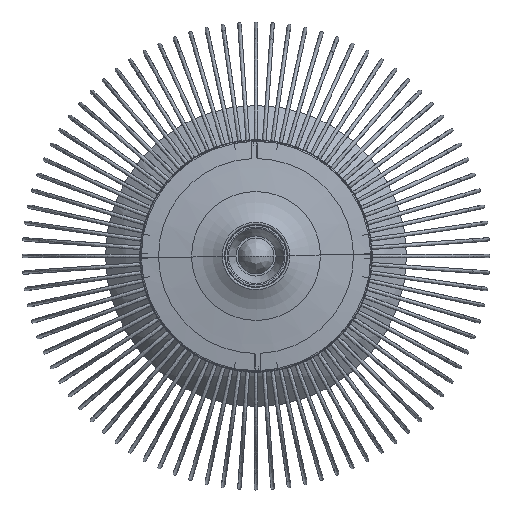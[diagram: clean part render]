
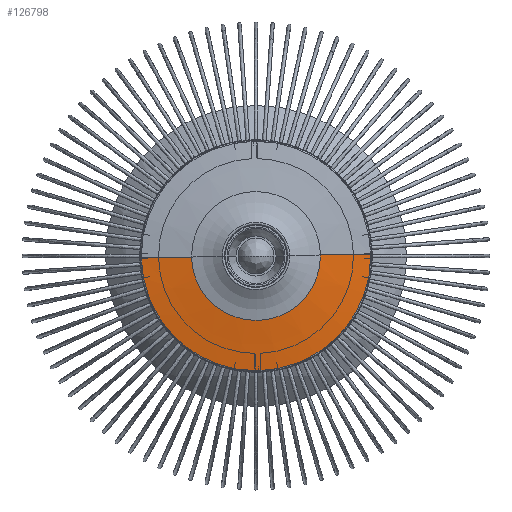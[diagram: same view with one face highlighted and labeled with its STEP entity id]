
A CAD part, front view. The second image highlights one B-rep face of the part: STEP entity #126798.
In plain terms, the highlighted conical face has half-angle 82 degrees and reference radius 80.878 mm.
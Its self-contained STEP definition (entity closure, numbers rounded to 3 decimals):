
#818 = ORIENTED_EDGE ( 'NONE', *, *, #29271, .T. ) ;
#2345 = VERTEX_POINT ( 'NONE', #123982 ) ;
#4225 = VECTOR ( 'NONE', #58015, 1000. ) ;
#5808 = VERTEX_POINT ( 'NONE', #129020 ) ;
#7886 = EDGE_CURVE ( 'NONE', #5808, #30468, #9919, .T. ) ;
#9919 = LINE ( 'NONE', #75906, #125363 ) ;
#14501 = CARTESIAN_POINT ( 'NONE',  ( -80.867, -3.5, -1.296 ) ) ;
#18178 = DIRECTION ( 'NONE',  ( 1., 0., 0.016 ) ) ;
#20609 = VERTEX_POINT ( 'NONE', #25091 ) ;
#25091 = CARTESIAN_POINT ( 'NONE',  ( -80.037, -3.617, -1.283 ) ) ;
#27897 = DIRECTION ( 'NONE',  ( 0., 1., 0. ) ) ;
#28344 = FACE_OUTER_BOUND ( 'NONE', #85520, .T. ) ;
#29271 = EDGE_CURVE ( 'NONE', #20609, #30468, #110647, .T. ) ;
#30468 = VERTEX_POINT ( 'NONE', #65773 ) ;
#34465 = ORIENTED_EDGE ( 'NONE', *, *, #120001, .T. ) ;
#46689 = DIRECTION ( 'NONE',  ( 0., -1., 0. ) ) ;
#48139 = AXIS2_PLACEMENT_3D ( 'NONE', #117101, #46689, #57566 ) ;
#57566 = DIRECTION ( 'NONE',  ( -1., 0., -0.016 ) ) ;
#58015 = DIRECTION ( 'NONE',  ( -0.99, 0.139, -0.016 ) ) ;
#60119 = CONICAL_SURFACE ( 'NONE', #94768, 80.878, 1.431 ) ;
#65773 = CARTESIAN_POINT ( 'NONE',  ( 80.037, -3.617, 1.283 ) ) ;
#72109 = DIRECTION ( 'NONE',  ( 1., 0., 0.016 ) ) ;
#72558 = CARTESIAN_POINT ( 'NONE',  ( 0., -3.5, 0. ) ) ;
#73253 = DIRECTION ( 'NONE',  ( 0., 1., 0. ) ) ;
#75906 = CARTESIAN_POINT ( 'NONE',  ( 80.867, -3.5, 1.296 ) ) ;
#80399 = AXIS2_PLACEMENT_3D ( 'NONE', #104024, #27897, #72109 ) ;
#80485 = LINE ( 'NONE', #14501, #4225 ) ;
#84460 = EDGE_CURVE ( 'NONE', #5808, #2345, #140578, .T. ) ;
#85520 = EDGE_LOOP ( 'NONE', ( #97851, #34465, #818, #139563 ) ) ;
#94768 = AXIS2_PLACEMENT_3D ( 'NONE', #72558, #73253, #18178 ) ;
#97851 = ORIENTED_EDGE ( 'NONE', *, *, #84460, .T. ) ;
#104024 = CARTESIAN_POINT ( 'NONE',  ( 0., -8.548, 0. ) ) ;
#110647 = CIRCLE ( 'NONE', #48139, 80.047 ) ;
#117101 = CARTESIAN_POINT ( 'NONE',  ( 0., -3.617, 0. ) ) ;
#120001 = EDGE_CURVE ( 'NONE', #2345, #20609, #80485, .T. ) ;
#123982 = CARTESIAN_POINT ( 'NONE',  ( -44.95, -8.548, -0.72 ) ) ;
#125363 = VECTOR ( 'NONE', #134644, 1000. ) ;
#126798 = ADVANCED_FACE ( 'NONE', ( #28344 ), #60119, .T. ) ;
#129020 = CARTESIAN_POINT ( 'NONE',  ( 44.95, -8.548, 0.72 ) ) ;
#134644 = DIRECTION ( 'NONE',  ( 0.99, 0.139, 0.016 ) ) ;
#139563 = ORIENTED_EDGE ( 'NONE', *, *, #7886, .F. ) ;
#140578 = CIRCLE ( 'NONE', #80399, 44.956 ) ;
